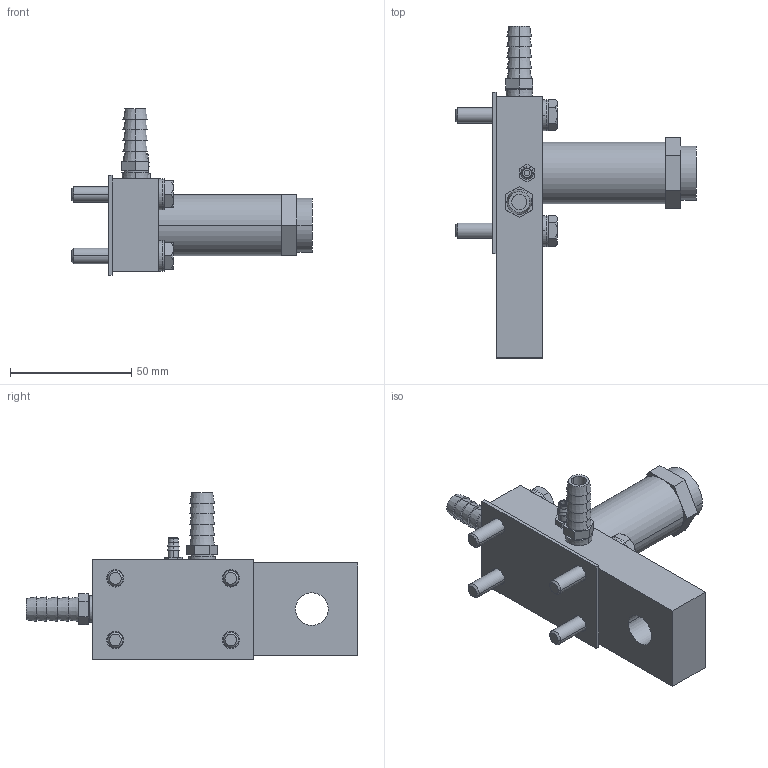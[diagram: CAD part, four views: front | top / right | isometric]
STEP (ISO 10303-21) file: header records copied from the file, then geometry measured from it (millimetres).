
FILE_DESCRIPTION((''),'2;1');
FILE_NAME('XH2_ASM','2017-08-24T',('jennifer.elliott'),('CenterLine (Windsor) Ltd - Automation Components Division'),'PRO/ENGINEER BY PARAMETRIC TECHNOLOGY CORPORATION, 2015030','PRO/ENGINEER BY PARAMETRIC TECHNOLOGY CORPORATION, 2015030','');
FILE_SCHEMA(('AUTOMOTIVE_DESIGN { 1 0 10303 214 1 1 1 1 }'));
Length unit declared in the file: inch
Products named in the file (21): PRT1141; PRT1142; PRT1143; PRT1144; PRT1145; PRT1146; PRT1147; PRT1148; PRT1149; PRT1150; PRT1151; PRT1152; PRT1153; PRT1154; PRT1155; PRT1156; PRT1157; PRT1158; PRT1159; PRT1160; XH2_ASM
Assembly tree (20 placements, depth 2):
  XH2_ASM
    PRT1141
    PRT1142
    PRT1143
    PRT1144
    PRT1145
    PRT1146
    PRT1147
    PRT1148
    PRT1149
    PRT1150
    PRT1151
    PRT1152
    PRT1153
    PRT1154
    PRT1155
    PRT1156
    PRT1157
    PRT1158
    PRT1159
    PRT1160
Bounding box: 99.25 x 136.91 x 68.64 mm (x, y, z)
Volume: 117739.1 mm3; surface area: 42114.4 mm2
Topology: 20 solids, 20 shells, 269 faces, 578 edges, 374 vertices
Faces by surface type: plane 121, cylinder 84, cone 60, torus 4
Entity records: 8931 total; most frequent: CARTESIAN_POINT 1575, DIRECTION 1416, ORIENTED_EDGE 1156, EDGE_CURVE 578, AXIS2_PLACEMENT_3D 576, VERTEX_POINT 374, EDGE_LOOP 334, FACE_OUTER_BOUND 269
